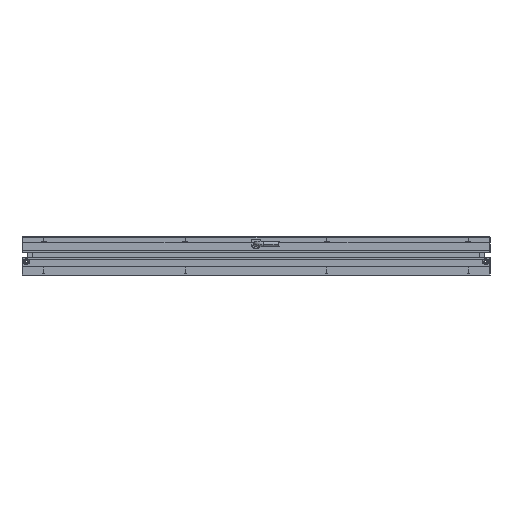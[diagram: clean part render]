
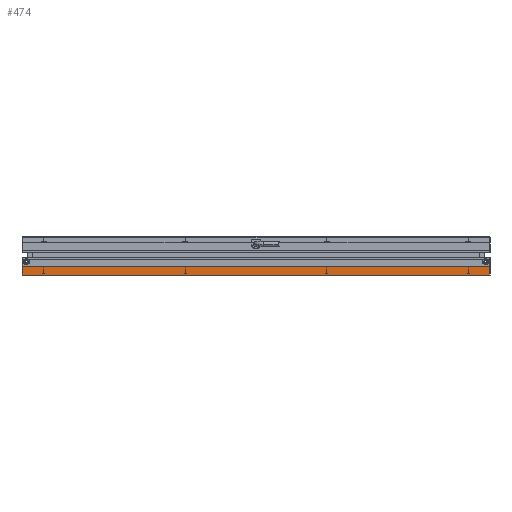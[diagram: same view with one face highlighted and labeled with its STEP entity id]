
A CAD part, left-side view. The second image highlights one B-rep face of the part: STEP entity #474.
In plain terms, the highlighted planar face has unit normal (-1, 0, 0).
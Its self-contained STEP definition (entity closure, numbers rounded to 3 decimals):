
#32 = EDGE_CURVE ( 'NONE', #1922, #8153, #7990, .T. ) ;
#186 = EDGE_CURVE ( 'NONE', #2687, #8153, #8105, .T. ) ;
#247 = ORIENTED_EDGE ( 'NONE', *, *, #32, .F. ) ;
#474 = ADVANCED_FACE ( 'NONE', ( #5348 ), #8238, .F. ) ;
#493 = VECTOR ( 'NONE', #5925, 1000. ) ;
#658 = CARTESIAN_POINT ( 'NONE',  ( -257., -156.5, -21.5 ) ) ;
#830 = CARTESIAN_POINT ( 'NONE',  ( -257., -157., -16. ) ) ;
#867 = ORIENTED_EDGE ( 'NONE', *, *, #186, .T. ) ;
#1107 = EDGE_CURVE ( 'NONE', #1922, #2136, #2710, .T. ) ;
#1331 = VECTOR ( 'NONE', #4967, 1000. ) ;
#1523 = DIRECTION ( 'NONE',  ( 0., 0., -1. ) ) ;
#1575 = CARTESIAN_POINT ( 'NONE',  ( -257., -157., -21.5 ) ) ;
#1922 = VERTEX_POINT ( 'NONE', #5570 ) ;
#2116 = CARTESIAN_POINT ( 'NONE',  ( -257., -157., -16. ) ) ;
#2136 = VERTEX_POINT ( 'NONE', #5905 ) ;
#2687 = VERTEX_POINT ( 'NONE', #658 ) ;
#2710 = LINE ( 'NONE', #7769, #7873 ) ;
#2864 = DIRECTION ( 'NONE',  ( 1., 0., 0. ) ) ;
#3242 = LINE ( 'NONE', #1575, #1331 ) ;
#3935 = CARTESIAN_POINT ( 'NONE',  ( -257., -156.5, -16. ) ) ;
#4233 = DIRECTION ( 'NONE',  ( 0., -1., 0. ) ) ;
#4967 = DIRECTION ( 'NONE',  ( 0., -1., 0. ) ) ;
#5348 = FACE_OUTER_BOUND ( 'NONE', #8679, .T. ) ;
#5570 = CARTESIAN_POINT ( 'NONE',  ( -257., 156.5, -16. ) ) ;
#5889 = ORIENTED_EDGE ( 'NONE', *, *, #1107, .T. ) ;
#5905 = CARTESIAN_POINT ( 'NONE',  ( -257., 156.5, -21.5 ) ) ;
#5925 = DIRECTION ( 'NONE',  ( 0., 0., 1. ) ) ;
#6130 = AXIS2_PLACEMENT_3D ( 'NONE', #2116, #2864, #1523 ) ;
#6200 = VECTOR ( 'NONE', #4233, 1000. ) ;
#6590 = EDGE_CURVE ( 'NONE', #2136, #2687, #3242, .T. ) ;
#7653 = DIRECTION ( 'NONE',  ( 0., 0., -1. ) ) ;
#7769 = CARTESIAN_POINT ( 'NONE',  ( -257., 156.5, -16. ) ) ;
#7873 = VECTOR ( 'NONE', #7653, 1000. ) ;
#7990 = LINE ( 'NONE', #830, #6200 ) ;
#8105 = LINE ( 'NONE', #3935, #493 ) ;
#8153 = VERTEX_POINT ( 'NONE', #8306 ) ;
#8238 = PLANE ( 'NONE',  #6130 ) ;
#8306 = CARTESIAN_POINT ( 'NONE',  ( -257., -156.5, -16. ) ) ;
#8679 = EDGE_LOOP ( 'NONE', ( #8755, #867, #247, #5889 ) ) ;
#8755 = ORIENTED_EDGE ( 'NONE', *, *, #6590, .T. ) ;
